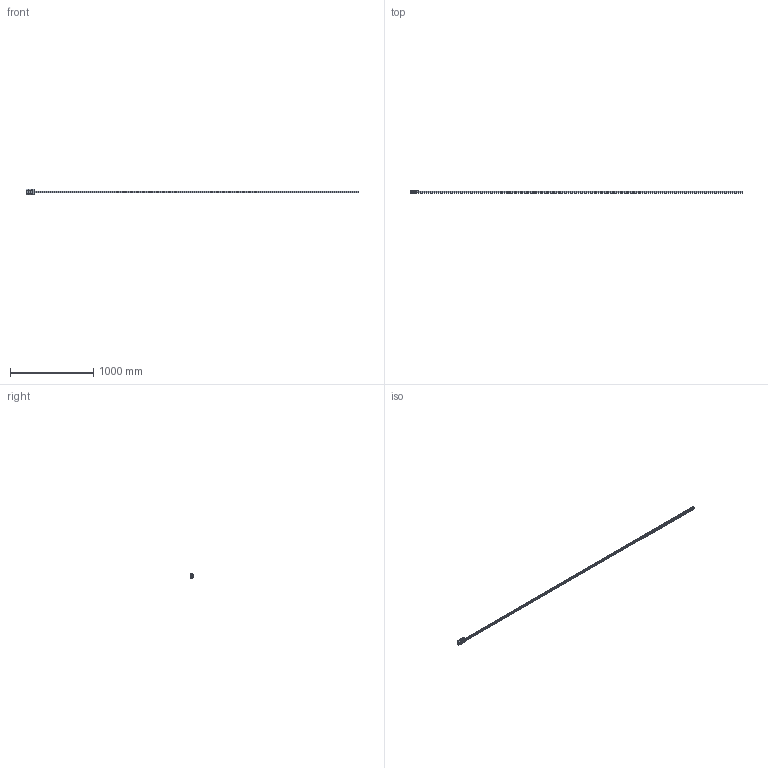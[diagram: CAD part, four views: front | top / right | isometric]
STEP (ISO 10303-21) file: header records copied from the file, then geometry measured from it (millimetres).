
FILE_DESCRIPTION( ( 'STEP AP203' ), '1' );
FILE_NAME( 'p:/temp/worker_20/temp/exporttempdir_1260_1810_hpMt9/format_0/FDG20 84441LN_4000-0.stp', '2021-04-27T06:44:55', ( 'License CC BY-ND 4.0' ), ( 'CADENAS' ), ' ', 'PARTsolutions', ' ' );
FILE_SCHEMA( ( 'CONFIG_CONTROL_DESIGN' ) );
Length unit declared in the file: millimetre
Products named in the file (3): FDG20 84441LN_4000-0; _FD_20K-4000-0; _FD_20K Rollenhalter
Assembly tree (2 placements, depth 2):
  FDG20 84441LN_4000-0
    _FD_20K-4000-0
    _FD_20K Rollenhalter
Bounding box: 4000 x 30 x 63 mm (x, y, z)
Volume: 1560308.4 mm3; surface area: 450703.2 mm2
Topology: 2 solids, 2 shells, 698 faces, 1838 edges, 1244 vertices
Faces by surface type: plane 381, cylinder 306, torus 8, cone 3
Full cylindrical faces by diameter (mm): 3.25 x1, 4.917 x4, 5.5 x67, 6.6 x4, 8.5 x8, 10 x75
Entity records: 20671 total; most frequent: DIRECTION 3605, CARTESIAN_POINT 3523, ORIENTED_EDGE 3186, EDGE_CURVE 1593, AXIS2_PLACEMENT_3D 1322, VERTEX_POINT 1166, EDGE_LOOP 1109, LINE 961
